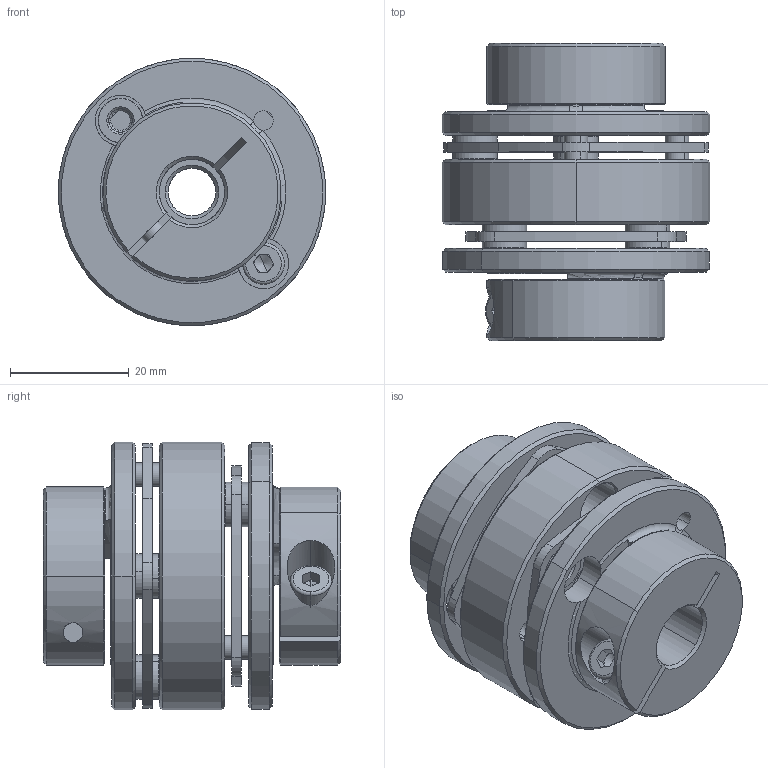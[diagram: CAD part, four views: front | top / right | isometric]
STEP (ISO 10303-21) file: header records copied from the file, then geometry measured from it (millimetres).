
FILE_DESCRIPTION (( 'STEP AP203' ), '1' );
FILE_NAME ('LE2-B-D45L50-8-11.STEP', '2021-11-01T06:26:43', ( '' ), ( '' ), 'SwSTEP 2.0', 'SolidWorks 2018', '' );
FILE_SCHEMA (( 'CONFIG_CONTROL_DESIGN' ));
Length unit declared in the file: millimetre
Products named in the file (1): LE2-B-D45L50-8-11
Bounding box: 45 x 50 x 45 mm (x, y, z)
Volume: 37584.6 mm3; surface area: 23989.1 mm2
Topology: 1 solids, 5 shells, 494 faces, 1194 edges, 732 vertices
Faces by surface type: cylinder 178, cone 154, plane 142, torus 18, bspline 2
Entity records: 14963 total; most frequent: CARTESIAN_POINT 2891, DIRECTION 2748, ORIENTED_EDGE 2364, EDGE_CURVE 1182, AXIS2_PLACEMENT_3D 1123, VERTEX_POINT 732, CIRCLE 630, EDGE_LOOP 586
